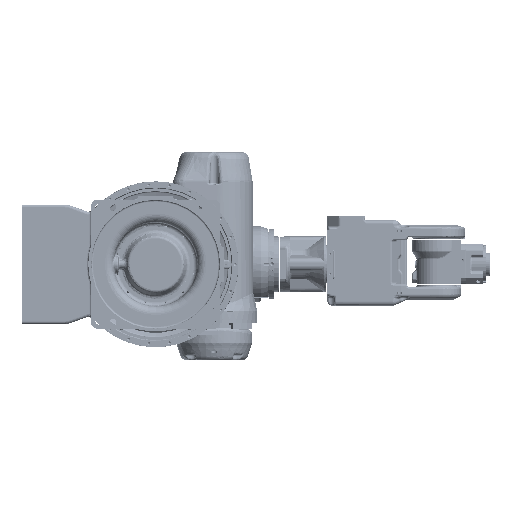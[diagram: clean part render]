
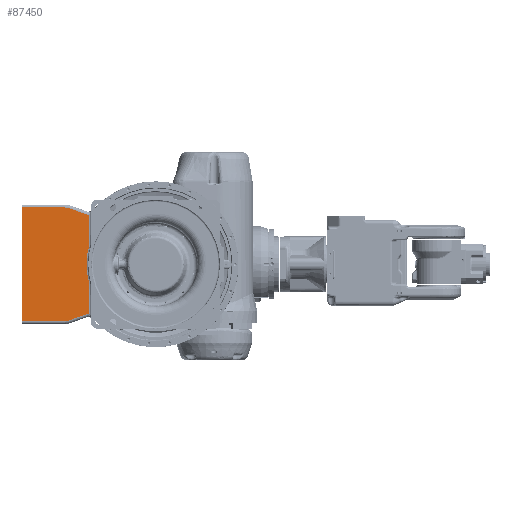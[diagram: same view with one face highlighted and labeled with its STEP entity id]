
A CAD part, front view. The second image highlights one B-rep face of the part: STEP entity #87450.
In plain terms, the highlighted planar face has unit normal (0, -1, 0) as drawn and (0, 0, -1) by its records, which use the part's own axes.
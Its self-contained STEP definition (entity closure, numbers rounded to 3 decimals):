
#9274=CIRCLE('',#93872,10.);
#9275=CIRCLE('',#93873,118.);
#9276=CIRCLE('',#93874,10.);
#9277=CIRCLE('',#93875,29.);
#9278=CIRCLE('',#93876,29.);
#15476=FACE_OUTER_BOUND('',#21395,.T.);
#21395=EDGE_LOOP('',(#59596,#59597,#59598,#59599,#59600,#59601,#59602,#59603,
#59604,#59605,#59606,#59607));
#27622=LINE('',#129459,#31789);
#27818=LINE('',#135987,#31985);
#27819=LINE('',#135995,#31986);
#27820=LINE('',#135999,#31987);
#27821=LINE('',#136003,#31988);
#27822=LINE('',#136005,#31989);
#27823=LINE('',#136008,#31990);
#31789=VECTOR('',#104125,194.);
#31985=VECTOR('',#105335,29.465);
#31986=VECTOR('',#105344,50.931);
#31987=VECTOR('',#105347,50.931);
#31988=VECTOR('',#105352,69.066);
#31989=VECTOR('',#105353,69.066);
#31990=VECTOR('',#105356,29.465);
#36009=VERTEX_POINT('',#129456);
#36010=VERTEX_POINT('',#129458);
#36407=VERTEX_POINT('',#135985);
#36408=VERTEX_POINT('',#135986);
#36409=VERTEX_POINT('',#135991);
#36410=VERTEX_POINT('',#135992);
#36411=VERTEX_POINT('',#135994);
#36412=VERTEX_POINT('',#135996);
#36413=VERTEX_POINT('',#135998);
#36414=VERTEX_POINT('',#136001);
#36415=VERTEX_POINT('',#136004);
#36416=VERTEX_POINT('',#136006);
#44485=EDGE_CURVE('',#36009,#36010,#27622,.T.);
#45110=EDGE_CURVE('',#36407,#36408,#27818,.T.);
#45113=EDGE_CURVE('',#36409,#36410,#9274,.T.);
#45114=EDGE_CURVE('',#36411,#36410,#27819,.T.);
#45115=EDGE_CURVE('',#36412,#36411,#9275,.T.);
#45116=EDGE_CURVE('',#36413,#36412,#27820,.T.);
#45117=EDGE_CURVE('',#36413,#36407,#9276,.T.);
#45118=EDGE_CURVE('',#36408,#36414,#9277,.T.);
#45119=EDGE_CURVE('',#36414,#36010,#27821,.T.);
#45120=EDGE_CURVE('',#36009,#36415,#27822,.T.);
#45121=EDGE_CURVE('',#36415,#36416,#9278,.T.);
#45122=EDGE_CURVE('',#36416,#36409,#27823,.T.);
#59596=ORIENTED_EDGE('',*,*,#45113,.T.);
#59597=ORIENTED_EDGE('',*,*,#45114,.F.);
#59598=ORIENTED_EDGE('',*,*,#45115,.F.);
#59599=ORIENTED_EDGE('',*,*,#45116,.F.);
#59600=ORIENTED_EDGE('',*,*,#45117,.T.);
#59601=ORIENTED_EDGE('',*,*,#45110,.T.);
#59602=ORIENTED_EDGE('',*,*,#45118,.T.);
#59603=ORIENTED_EDGE('',*,*,#45119,.T.);
#59604=ORIENTED_EDGE('',*,*,#44485,.F.);
#59605=ORIENTED_EDGE('',*,*,#45120,.T.);
#59606=ORIENTED_EDGE('',*,*,#45121,.T.);
#59607=ORIENTED_EDGE('',*,*,#45122,.T.);
#86142=PLANE('',#93871);
#87450=ADVANCED_FACE('',(#15476),#86142,.T.);
#93871=AXIS2_PLACEMENT_3D('',#135990,#105340,#105341);
#93872=AXIS2_PLACEMENT_3D('',#135993,#105342,#105343);
#93873=AXIS2_PLACEMENT_3D('',#135997,#105345,#105346);
#93874=AXIS2_PLACEMENT_3D('',#136000,#105348,#105349);
#93875=AXIS2_PLACEMENT_3D('',#136002,#105350,#105351);
#93876=AXIS2_PLACEMENT_3D('',#136007,#105354,#105355);
#104125=DIRECTION('',(0.,-1.,0.));
#105335=DIRECTION('',(-0.941,-0.339,0.));
#105340=DIRECTION('center_axis',(0.,0.,-1.));
#105341=DIRECTION('ref_axis',(0.,1.,0.));
#105342=DIRECTION('center_axis',(0.,0.,1.));
#105343=DIRECTION('ref_axis',(-0.339,-0.941,0.));
#105344=DIRECTION('',(0.,1.,0.));
#105345=DIRECTION('center_axis',(0.,0.,-1.));
#105346=DIRECTION('ref_axis',(-0.958,-0.288,0.));
#105347=DIRECTION('',(0.,1.,0.));
#105348=DIRECTION('center_axis',(0.,0.,1.));
#105349=DIRECTION('ref_axis',(0.2,0.98,0.));
#105350=DIRECTION('center_axis',(0.,0.,-1.));
#105351=DIRECTION('ref_axis',(0.339,-0.941,0.));
#105352=DIRECTION('',(-1.,0.,0.));
#105353=DIRECTION('',(1.,0.,0.));
#105354=DIRECTION('center_axis',(0.,0.,-1.));
#105355=DIRECTION('ref_axis',(0.,1.,0.));
#105356=DIRECTION('',(0.941,-0.339,0.));
#129456=CARTESIAN_POINT('',(-228.2,97.,3.));
#129458=CARTESIAN_POINT('',(-228.2,-97.,3.));
#129459=CARTESIAN_POINT('',(-228.2,97.,3.));
#135985=CARTESIAN_POINT('',(-118.387,-85.305,3.));
#135986=CARTESIAN_POINT('',(-146.111,-95.286,3.));
#135987=CARTESIAN_POINT('',(-118.387,-85.305,3.));
#135990=CARTESIAN_POINT('Origin',(-50.,0.,3.));
#135991=CARTESIAN_POINT('',(-118.387,85.305,3.));
#135992=CARTESIAN_POINT('',(-113.,84.916,3.));
#135993=CARTESIAN_POINT('Origin',(-115.,94.714,3.));
#135994=CARTESIAN_POINT('',(-113.,33.985,3.));
#135995=CARTESIAN_POINT('',(-113.,33.985,3.));
#135996=CARTESIAN_POINT('',(-113.,-33.985,3.));
#135997=CARTESIAN_POINT('Origin',(0.,0.,3.));
#135998=CARTESIAN_POINT('',(-113.,-84.916,3.));
#135999=CARTESIAN_POINT('',(-113.,-84.916,3.));
#136000=CARTESIAN_POINT('Origin',(-115.,-94.714,3.));
#136001=CARTESIAN_POINT('',(-155.934,-97.,3.));
#136002=CARTESIAN_POINT('Origin',(-155.934,-68.,3.));
#136003=CARTESIAN_POINT('',(-155.934,-97.,3.));
#136004=CARTESIAN_POINT('',(-155.934,97.,3.));
#136005=CARTESIAN_POINT('',(-225.,97.,3.));
#136006=CARTESIAN_POINT('',(-146.111,95.286,3.));
#136007=CARTESIAN_POINT('Origin',(-155.934,68.,3.));
#136008=CARTESIAN_POINT('',(-146.111,95.286,3.));
